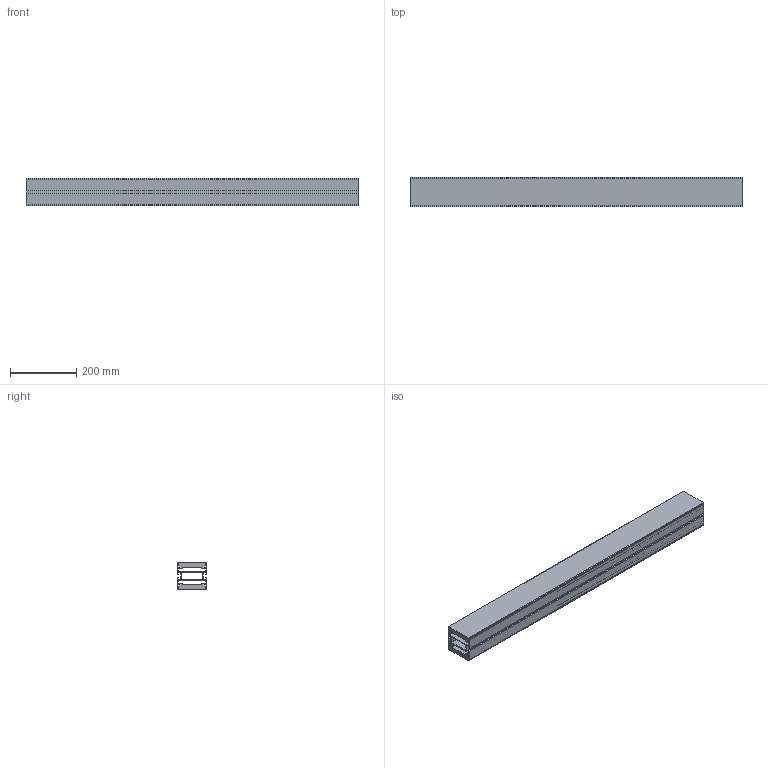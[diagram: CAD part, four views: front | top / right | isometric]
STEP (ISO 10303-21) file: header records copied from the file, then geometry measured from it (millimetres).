
FILE_DESCRIPTION (( 'STEP AP214' ), '1' );
FILE_NAME ('924173 CS090SL Baansectie recht 1000mm.STEP', '2017-12-20T16:23:13', ( '' ), ( '' ), 'SwSTEP 2.0', 'SolidWorks 2017', '' );
FILE_SCHEMA (( 'AUTOMOTIVE_DESIGN' ));
Length unit declared in the file: millimetre
Products named in the file (1): 924173 CS090SL Baansectie recht 1000mm
Bounding box: 1000 x 90 x 84 mm (x, y, z)
Volume: 3701604.9 mm3; surface area: 1151491.9 mm2
Topology: 1 solids, 1 shells, 164 faces, 486 edges, 324 vertices
Faces by surface type: plane 98, cylinder 66
Entity records: 5548 total; most frequent: CARTESIAN_POINT 975, ORIENTED_EDGE 972, DIRECTION 948, EDGE_CURVE 486, VECTOR 354, LINE 354, VERTEX_POINT 324, AXIS2_PLACEMENT_3D 297
